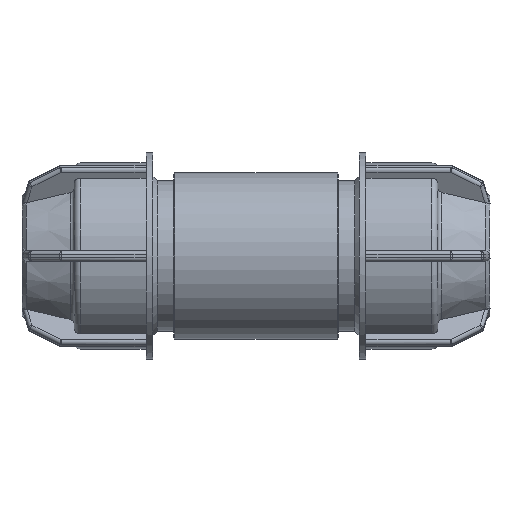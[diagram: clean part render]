
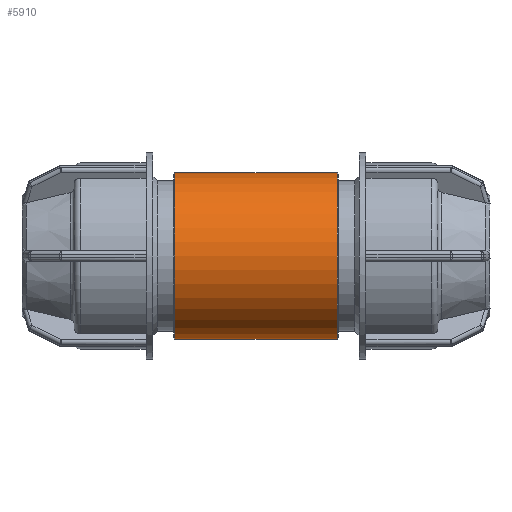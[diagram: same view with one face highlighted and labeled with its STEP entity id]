
A CAD part, front view. The second image highlights one B-rep face of the part: STEP entity #5910.
In plain terms, the highlighted cylindrical face has radius 22.88 mm (diameter 45.76 mm), a full revolution.
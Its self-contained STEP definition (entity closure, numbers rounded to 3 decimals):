
#837=B_SPLINE_CURVE_WITH_KNOTS('',3,(#8988,#8989,#8990,#8991,#8992,#8993,
#8994,#8995,#8996,#8997,#8998,#8999,#9000,#9001,#9002,#9003,#9004,#9005,
#9006,#9007,#9008,#9009,#9010,#9011,#9012,#9013,#9014,#9015,#9016,#9017,
#9018,#9019,#9020,#9021),.UNSPECIFIED.,.T.,.F.,(4,2,2,2,2,2,2,2,2,2,2,2,
2,2,2,2,4),(0.,0.319,0.638,0.957,1.276,
1.595,1.914,2.233,2.552,2.872,
3.191,3.51,3.829,4.148,4.467,
4.786,5.105),.UNSPECIFIED.);
#1019=CYLINDRICAL_SURFACE('',#6329,22.88);
#1339=FACE_BOUND('',#1800,.T.);
#1340=FACE_BOUND('',#1801,.T.);
#1383=FACE_OUTER_BOUND('',#1799,.T.);
#1799=EDGE_LOOP('',(#4064));
#1800=EDGE_LOOP('',(#4065));
#1801=EDGE_LOOP('',(#4066));
#2254=CIRCLE('',#6326,22.88);
#2256=CIRCLE('',#6330,22.88);
#2603=VERTEX_POINT('',#8979);
#2605=VERTEX_POINT('',#8985);
#2606=VERTEX_POINT('',#8987);
#3146=EDGE_CURVE('',#2603,#2603,#2254,.T.);
#3148=EDGE_CURVE('',#2605,#2605,#2256,.T.);
#3149=EDGE_CURVE('',#2606,#2606,#837,.T.);
#4064=ORIENTED_EDGE('',*,*,#3148,.F.);
#4065=ORIENTED_EDGE('',*,*,#3149,.F.);
#4066=ORIENTED_EDGE('',*,*,#3146,.F.);
#5910=ADVANCED_FACE('',(#1383,#1339,#1340),#1019,.T.);
#6326=AXIS2_PLACEMENT_3D('',#8980,#7093,#7094);
#6329=AXIS2_PLACEMENT_3D('',#8984,#7099,#7100);
#6330=AXIS2_PLACEMENT_3D('',#8986,#7101,#7102);
#7093=DIRECTION('center_axis',(-1.,0.,0.));
#7094=DIRECTION('ref_axis',(0.,-1.,0.));
#7099=DIRECTION('center_axis',(1.,0.,0.));
#7100=DIRECTION('ref_axis',(0.,1.,0.));
#7101=DIRECTION('center_axis',(1.,0.,0.));
#7102=DIRECTION('ref_axis',(0.,-1.,0.));
#8979=CARTESIAN_POINT('',(-22.38,22.88,0.));
#8980=CARTESIAN_POINT('Origin',(-22.38,0.,0.));
#8984=CARTESIAN_POINT('Origin',(11.35,0.,0.));
#8985=CARTESIAN_POINT('',(22.38,22.88,0.));
#8986=CARTESIAN_POINT('Origin',(22.38,0.,0.));
#8987=CARTESIAN_POINT('',(0.,21.289,-8.384));
#8988=CARTESIAN_POINT('Ctrl Pts',(0.,21.289,
8.384));
#8989=CARTESIAN_POINT('Ctrl Pts',(1.064,21.289,8.384));
#8990=CARTESIAN_POINT('Ctrl Pts',(2.191,21.377,8.169));
#8991=CARTESIAN_POINT('Ctrl Pts',(4.253,21.685,7.311));
#8992=CARTESIAN_POINT('Ctrl Pts',(5.189,21.9,6.667));
#8993=CARTESIAN_POINT('Ctrl Pts',(6.667,22.297,5.19));
#8994=CARTESIAN_POINT('Ctrl Pts',(7.311,22.505,4.254));
#8995=CARTESIAN_POINT('Ctrl Pts',(8.169,22.799,2.191));
#8996=CARTESIAN_POINT('Ctrl Pts',(8.384,22.88,1.063));
#8997=CARTESIAN_POINT('Ctrl Pts',(8.384,22.88,-1.063));
#8998=CARTESIAN_POINT('Ctrl Pts',(8.169,22.799,-2.191));
#8999=CARTESIAN_POINT('Ctrl Pts',(7.311,22.505,-4.254));
#9000=CARTESIAN_POINT('Ctrl Pts',(6.667,22.297,-5.19));
#9001=CARTESIAN_POINT('Ctrl Pts',(5.189,21.9,-6.667));
#9002=CARTESIAN_POINT('Ctrl Pts',(4.253,21.685,-7.311));
#9003=CARTESIAN_POINT('Ctrl Pts',(2.191,21.377,-8.169));
#9004=CARTESIAN_POINT('Ctrl Pts',(1.064,21.289,-8.384));
#9005=CARTESIAN_POINT('Ctrl Pts',(-1.064,21.289,-8.384));
#9006=CARTESIAN_POINT('Ctrl Pts',(-2.191,21.377,-8.169));
#9007=CARTESIAN_POINT('Ctrl Pts',(-4.253,21.685,-7.311));
#9008=CARTESIAN_POINT('Ctrl Pts',(-5.189,21.9,-6.667));
#9009=CARTESIAN_POINT('Ctrl Pts',(-6.667,22.297,-5.19));
#9010=CARTESIAN_POINT('Ctrl Pts',(-7.311,22.505,-4.254));
#9011=CARTESIAN_POINT('Ctrl Pts',(-8.169,22.799,-2.191));
#9012=CARTESIAN_POINT('Ctrl Pts',(-8.384,22.88,-1.063));
#9013=CARTESIAN_POINT('Ctrl Pts',(-8.384,22.88,1.063));
#9014=CARTESIAN_POINT('Ctrl Pts',(-8.169,22.799,2.191));
#9015=CARTESIAN_POINT('Ctrl Pts',(-7.311,22.505,4.254));
#9016=CARTESIAN_POINT('Ctrl Pts',(-6.667,22.297,5.19));
#9017=CARTESIAN_POINT('Ctrl Pts',(-5.189,21.9,6.667));
#9018=CARTESIAN_POINT('Ctrl Pts',(-4.253,21.685,7.311));
#9019=CARTESIAN_POINT('Ctrl Pts',(-2.191,21.377,8.169));
#9020=CARTESIAN_POINT('Ctrl Pts',(-1.064,21.289,8.384));
#9021=CARTESIAN_POINT('Ctrl Pts',(0.,21.289,8.384));
